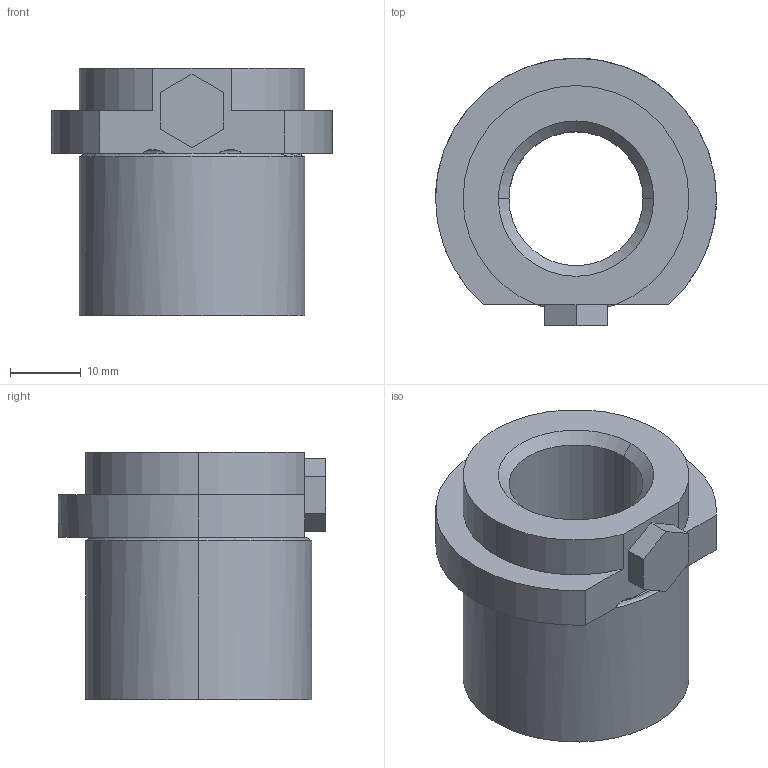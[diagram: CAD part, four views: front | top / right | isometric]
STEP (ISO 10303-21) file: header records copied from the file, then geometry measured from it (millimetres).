
FILE_DESCRIPTION(('CATIA V5 STEP Exchange'),'2;1');
FILE_NAME('C:\Users\Utente\Desktop\IO LAVORO\3D X SITO CF\X SITO\740\740-19.stp','2021-01-18T19:41:46+00:00',('none'),('none'),'CATIA Version 5 Release 20 GA (IN-10)','CATIA V5 STEP AP203','none');
FILE_SCHEMA(('CONFIG_CONTROL_DESIGN'));
Length unit declared in the file: millimetre
Products named in the file (1): 740-19
Assembly tree (1 placements, depth 2):
  740-19
    #58
Bounding box: 39.8 x 37.9 x 35 mm (x, y, z)
Volume: 20145.6 mm3; surface area: 7694.8 mm2
Topology: 1 solids, 1 shells, 35 faces, 89 edges, 58 vertices
Faces by surface type: plane 14, cylinder 12, torus 5, cone 4
Entity records: 1324 total; most frequent: CARTESIAN_POINT 457, ORIENTED_EDGE 178, DIRECTION 139, EDGE_CURVE 89, AXIS2_PLACEMENT_3D 63, VERTEX_POINT 58, VECTOR 42, LINE 42
